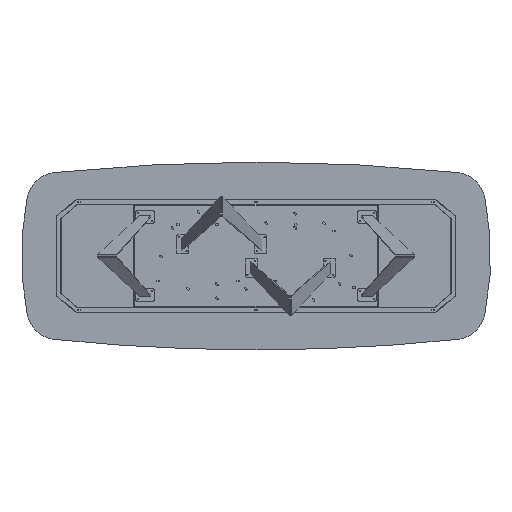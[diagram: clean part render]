
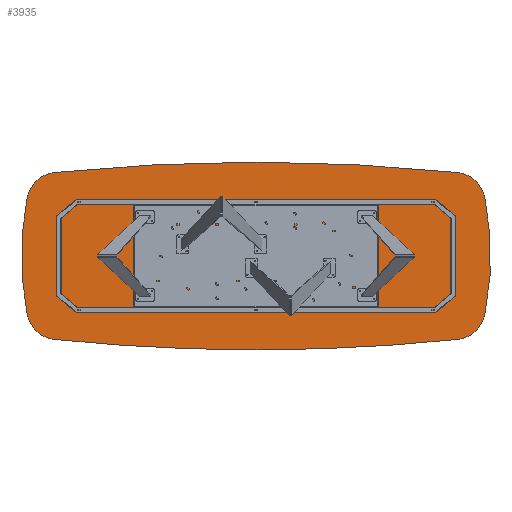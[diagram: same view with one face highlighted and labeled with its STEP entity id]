
A CAD part, front view. The second image highlights one B-rep face of the part: STEP entity #3935.
In plain terms, the highlighted planar face has unit normal (0, -1, 0).
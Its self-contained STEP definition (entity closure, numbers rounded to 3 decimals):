
#129 = CARTESIAN_POINT ( 'NONE',  ( -1462.835, 0., 373.961 ) ) ;
#220 = DIRECTION ( 'NONE',  ( 0., 0., 1. ) ) ;
#388 = AXIS2_PLACEMENT_3D ( 'NONE', #2747, #15940, #13255 ) ;
#888 = DIRECTION ( 'NONE',  ( 0., 1., 0. ) ) ;
#1058 = CARTESIAN_POINT ( 'NONE',  ( -1266.747, 0., -334.597 ) ) ;
#1241 = ORIENTED_EDGE ( 'NONE', *, *, #14279, .T. ) ;
#1449 = VERTEX_POINT ( 'NONE', #5317 ) ;
#1504 = CIRCLE ( 'NONE', #14467, 1900. ) ;
#1631 = ORIENTED_EDGE ( 'NONE', *, *, #9628, .F. ) ;
#1675 = CARTESIAN_POINT ( 'NONE',  ( 0., 0., 11900. ) ) ;
#1847 = ORIENTED_EDGE ( 'NONE', *, *, #5069, .T. ) ;
#2040 = AXIS2_PLACEMENT_3D ( 'NONE', #3360, #4954, #13702 ) ;
#2271 = ORIENTED_EDGE ( 'NONE', *, *, #8635, .F. ) ;
#2287 = AXIS2_PLACEMENT_3D ( 'NONE', #10914, #7075, #10218 ) ;
#2367 = EDGE_CURVE ( 'NONE', #7713, #12565, #4491, .T. ) ;
#2540 = CIRCLE ( 'NONE', #388, 12500. ) ;
#2747 = CARTESIAN_POINT ( 'NONE',  ( 0., 0., 11900. ) ) ;
#2753 = VERTEX_POINT ( 'NONE', #14145 ) ;
#2932 = DIRECTION ( 'NONE',  ( 0., 0., 1. ) ) ;
#3008 = VERTEX_POINT ( 'NONE', #9158 ) ;
#3265 = CARTESIAN_POINT ( 'NONE',  ( 1287.344, 0., -533.533 ) ) ;
#3298 = ORIENTED_EDGE ( 'NONE', *, *, #11404, .F. ) ;
#3350 = CIRCLE ( 'NONE', #2287, 200. ) ;
#3360 = CARTESIAN_POINT ( 'NONE',  ( -400., 0., 0. ) ) ;
#3377 = CARTESIAN_POINT ( 'NONE',  ( -1462.835, 0., -373.961 ) ) ;
#3529 = CARTESIAN_POINT ( 'NONE',  ( -1266.747, 0., 334.597 ) ) ;
#3585 = CARTESIAN_POINT ( 'NONE',  ( 400., 0., 0. ) ) ;
#3705 = VERTEX_POINT ( 'NONE', #3265 ) ;
#3935 = ADVANCED_FACE ( 'NONE', ( #15608 ), #7999, .F. ) ;
#4058 = ORIENTED_EDGE ( 'NONE', *, *, #12655, .F. ) ;
#4087 = CARTESIAN_POINT ( 'NONE',  ( 1266.747, 0., -334.597 ) ) ;
#4108 = VERTEX_POINT ( 'NONE', #129 ) ;
#4491 = CIRCLE ( 'NONE', #11017, 200. ) ;
#4657 = AXIS2_PLACEMENT_3D ( 'NONE', #11583, #14097, #220 ) ;
#4776 = CARTESIAN_POINT ( 'NONE',  ( 0., 0., -11900. ) ) ;
#4855 = DIRECTION ( 'NONE',  ( 0., 0., 1. ) ) ;
#4954 = DIRECTION ( 'NONE',  ( 0., 1., 0. ) ) ;
#5069 = EDGE_CURVE ( 'NONE', #3008, #14149, #3350, .T. ) ;
#5317 = CARTESIAN_POINT ( 'NONE',  ( 0., 0., -600. ) ) ;
#5952 = CARTESIAN_POINT ( 'NONE',  ( 1287.344, 0., 533.533 ) ) ;
#6017 = CIRCLE ( 'NONE', #14418, 200. ) ;
#6067 = CIRCLE ( 'NONE', #15535, 12500. ) ;
#6188 = DIRECTION ( 'NONE',  ( 0., -1., 0. ) ) ;
#6219 = ORIENTED_EDGE ( 'NONE', *, *, #2367, .T. ) ;
#6332 = CIRCLE ( 'NONE', #2040, 1900. ) ;
#6889 = DIRECTION ( 'NONE',  ( 0., 1., 0. ) ) ;
#7075 = DIRECTION ( 'NONE',  ( 0., -1., 0. ) ) ;
#7586 = DIRECTION ( 'NONE',  ( 0., 0., 1. ) ) ;
#7713 = VERTEX_POINT ( 'NONE', #3377 ) ;
#7767 = ORIENTED_EDGE ( 'NONE', *, *, #16679, .T. ) ;
#7999 = PLANE ( 'NONE',  #4657 ) ;
#8635 = EDGE_CURVE ( 'NONE', #1449, #12565, #2540, .T. ) ;
#8686 = AXIS2_PLACEMENT_3D ( 'NONE', #3529, #12523, #7586 ) ;
#8894 = VERTEX_POINT ( 'NONE', #9240 ) ;
#9158 = CARTESIAN_POINT ( 'NONE',  ( 1462.835, 0., 373.961 ) ) ;
#9240 = CARTESIAN_POINT ( 'NONE',  ( -1287.344, 0., 533.533 ) ) ;
#9265 = DIRECTION ( 'NONE',  ( 0., -1., 0. ) ) ;
#9628 = EDGE_CURVE ( 'NONE', #3008, #2753, #6332, .T. ) ;
#10218 = DIRECTION ( 'NONE',  ( 0., 0., 1. ) ) ;
#10914 = CARTESIAN_POINT ( 'NONE',  ( 1266.747, 0., 334.597 ) ) ;
#11017 = AXIS2_PLACEMENT_3D ( 'NONE', #1058, #6188, #15422 ) ;
#11187 = ORIENTED_EDGE ( 'NONE', *, *, #11520, .F. ) ;
#11404 = EDGE_CURVE ( 'NONE', #3705, #1449, #6067, .T. ) ;
#11520 = EDGE_CURVE ( 'NONE', #7713, #4108, #1504, .T. ) ;
#11583 = CARTESIAN_POINT ( 'NONE',  ( -200., 0., 5950. ) ) ;
#12523 = DIRECTION ( 'NONE',  ( 0., -1., 0. ) ) ;
#12565 = VERTEX_POINT ( 'NONE', #16033 ) ;
#12655 = EDGE_CURVE ( 'NONE', #8894, #14149, #12898, .T. ) ;
#12898 = CIRCLE ( 'NONE', #14769, 12500. ) ;
#13207 = EDGE_LOOP ( 'NONE', ( #4058, #7767, #11187, #6219, #2271, #3298, #1241, #1631, #1847 ) ) ;
#13255 = DIRECTION ( 'NONE',  ( 0., 0., 1. ) ) ;
#13702 = DIRECTION ( 'NONE',  ( 0., 0., 1. ) ) ;
#14097 = DIRECTION ( 'NONE',  ( 0., 1., 0. ) ) ;
#14145 = CARTESIAN_POINT ( 'NONE',  ( 1462.835, 0., -373.961 ) ) ;
#14149 = VERTEX_POINT ( 'NONE', #5952 ) ;
#14279 = EDGE_CURVE ( 'NONE', #3705, #2753, #6017, .T. ) ;
#14418 = AXIS2_PLACEMENT_3D ( 'NONE', #4087, #9265, #14419 ) ;
#14419 = DIRECTION ( 'NONE',  ( 0., 0., 1. ) ) ;
#14467 = AXIS2_PLACEMENT_3D ( 'NONE', #3585, #888, #4855 ) ;
#14769 = AXIS2_PLACEMENT_3D ( 'NONE', #4776, #15094, #16362 ) ;
#15094 = DIRECTION ( 'NONE',  ( 0., 1., 0. ) ) ;
#15422 = DIRECTION ( 'NONE',  ( 0., 0., 1. ) ) ;
#15535 = AXIS2_PLACEMENT_3D ( 'NONE', #1675, #6889, #2932 ) ;
#15608 = FACE_OUTER_BOUND ( 'NONE', #13207, .T. ) ;
#15940 = DIRECTION ( 'NONE',  ( 0., 1., 0. ) ) ;
#15975 = CIRCLE ( 'NONE', #8686, 200. ) ;
#16033 = CARTESIAN_POINT ( 'NONE',  ( -1287.344, 0., -533.533 ) ) ;
#16362 = DIRECTION ( 'NONE',  ( 0., 0., 1. ) ) ;
#16679 = EDGE_CURVE ( 'NONE', #8894, #4108, #15975, .T. ) ;
